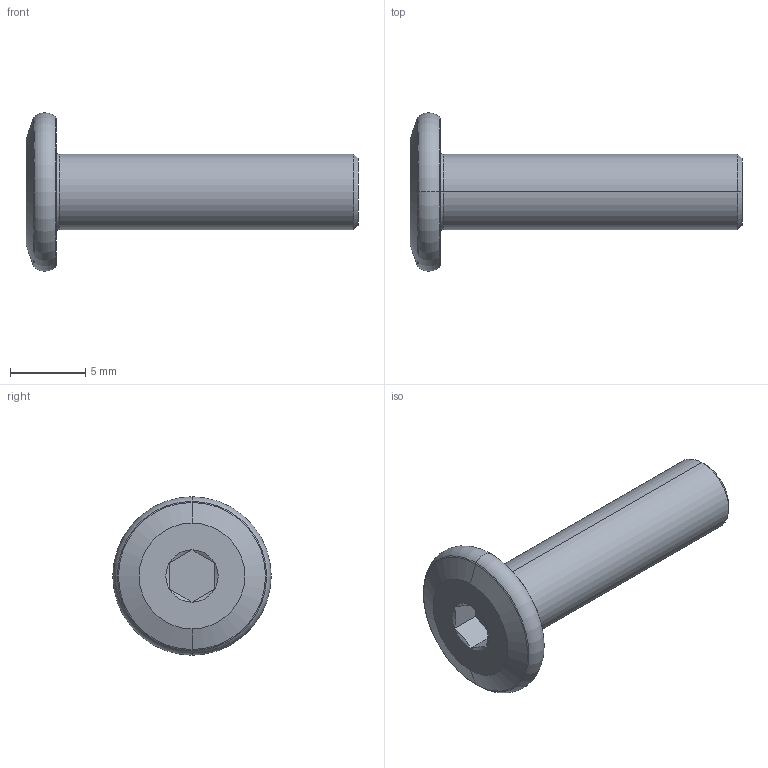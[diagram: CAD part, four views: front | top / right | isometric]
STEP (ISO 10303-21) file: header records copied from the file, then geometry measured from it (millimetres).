
FILE_DESCRIPTION (( 'STEP AP203' ), '1' );
FILE_NAME ('LGD-304D-M5x20.STEP', '2026-08-13T07:23:59', ( '' ), ( '' ), 'SwSTEP 2.0', 'SolidWorks 2020', '' );
FILE_SCHEMA (( 'CONFIG_CONTROL_DESIGN' ));
Length unit declared in the file: millimetre
Products named in the file (1): LGD-304D-M5x20
Bounding box: 22 x 10.5 x 10.5 mm (x, y, z)
Volume: 529.3 mm3; surface area: 538.3 mm2
Topology: 1 solids, 1 shells, 30 faces, 56 edges, 30 vertices
Faces by surface type: cone 10, plane 10, torus 8, cylinder 2
Entity records: 835 total; most frequent: CARTESIAN_POINT 151, DIRECTION 144, ORIENTED_EDGE 112, AXIS2_PLACEMENT_3D 63, EDGE_CURVE 56, EDGE_LOOP 32, CIRCLE 32, VERTEX_POINT 30
